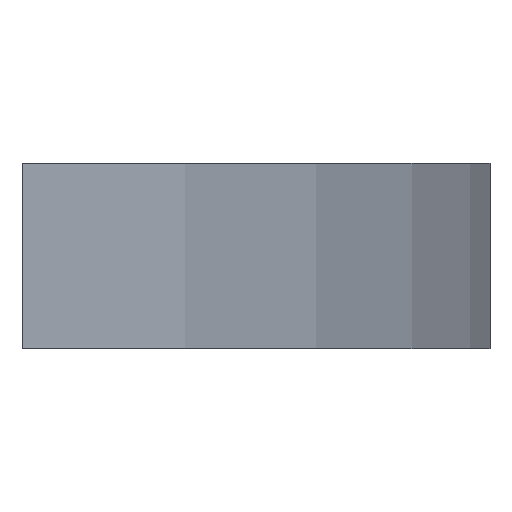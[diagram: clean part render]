
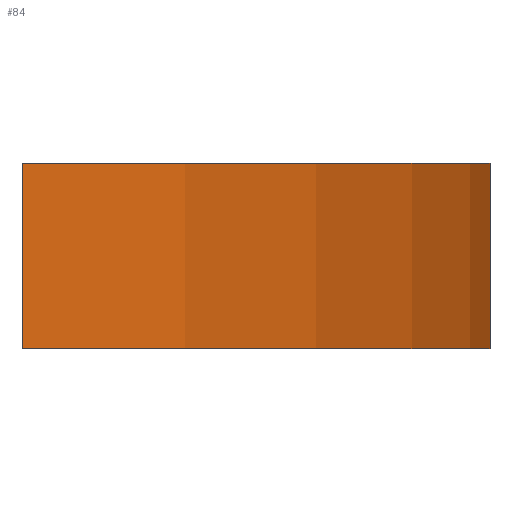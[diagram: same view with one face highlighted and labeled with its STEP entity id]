
A CAD part, left-side view. The second image highlights one B-rep face of the part: STEP entity #84.
In plain terms, the highlighted cylindrical face has radius 105.1 mm (diameter 210.2 mm), a partial arc.
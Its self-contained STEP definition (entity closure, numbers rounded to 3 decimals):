
#84 = ADVANCED_FACE( '', ( #109 ), #110, .T. );
#109 = FACE_OUTER_BOUND( '', #137, .T. );
#110 = CYLINDRICAL_SURFACE( '', #138, 105.1 );
#137 = EDGE_LOOP( '', ( #210, #211, #212, #213 ) );
#138 = AXIS2_PLACEMENT_3D( '', #214, #215, #216 );
#210 = ORIENTED_EDGE( '', *, *, #259, .T. );
#211 = ORIENTED_EDGE( '', *, *, #262, .F. );
#212 = ORIENTED_EDGE( '', *, *, #257, .T. );
#213 = ORIENTED_EDGE( '', *, *, #263, .T. );
#214 = CARTESIAN_POINT( '', ( 64., 76.1, 0. ) );
#215 = DIRECTION( '', ( 0., 0., 1. ) );
#216 = DIRECTION( '', ( 0.866, -0.5, 0. ) );
#257 = EDGE_CURVE( '', #294, #297, #299, .T. );
#259 = EDGE_CURVE( '', #303, #300, #304, .T. );
#262 = EDGE_CURVE( '', #294, #300, #307, .T. );
#263 = EDGE_CURVE( '', #297, #303, #308, .T. );
#294 = VERTEX_POINT( '', #425 );
#297 = VERTEX_POINT( '', #470 );
#299 = LINE( '', #473, #474 );
#300 = VERTEX_POINT( '', #475 );
#303 = VERTEX_POINT( '', #479 );
#304 = LINE( '', #480, #481 );
#307 = CIRCLE( '', #526, 105.1 );
#308 = CIRCLE( '', #527, 105.1 );
#425 = CARTESIAN_POINT( '', ( 136.49, 0., -5.75 ) );
#470 = CARTESIAN_POINT( '', ( 136.49, 0., 5.75 ) );
#473 = CARTESIAN_POINT( '', ( 136.49, 0., 0. ) );
#474 = VECTOR( '', #565, 1. );
#475 = CARTESIAN_POINT( '', ( -8.49, 0., -5.75 ) );
#479 = CARTESIAN_POINT( '', ( -8.49, 0., 5.75 ) );
#480 = CARTESIAN_POINT( '', ( -8.49, 0., 0. ) );
#481 = VECTOR( '', #567, 1. );
#526 = AXIS2_PLACEMENT_3D( '', #569, #570, #571 );
#527 = AXIS2_PLACEMENT_3D( '', #572, #573, #574 );
#565 = DIRECTION( '', ( 0., 0., 1. ) );
#567 = DIRECTION( '', ( 0., 0., -1. ) );
#569 = CARTESIAN_POINT( '', ( 64., 76.1, -5.75 ) );
#570 = DIRECTION( '', ( 0., 0., -1. ) );
#571 = DIRECTION( '', ( 0.866, -0.5, 0. ) );
#572 = CARTESIAN_POINT( '', ( 64., 76.1, 5.75 ) );
#573 = DIRECTION( '', ( 0., 0., -1. ) );
#574 = DIRECTION( '', ( 0.866, -0.5, 0. ) );
